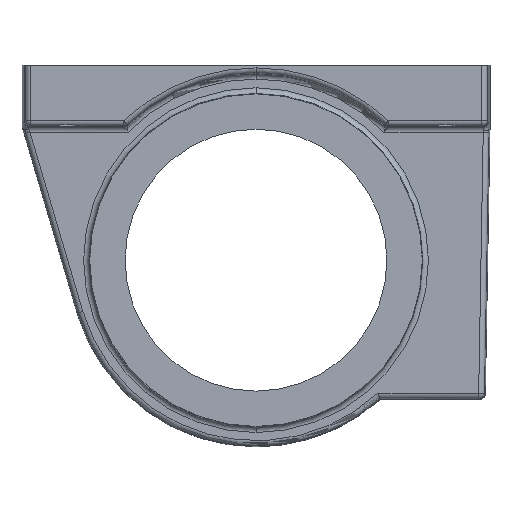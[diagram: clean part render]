
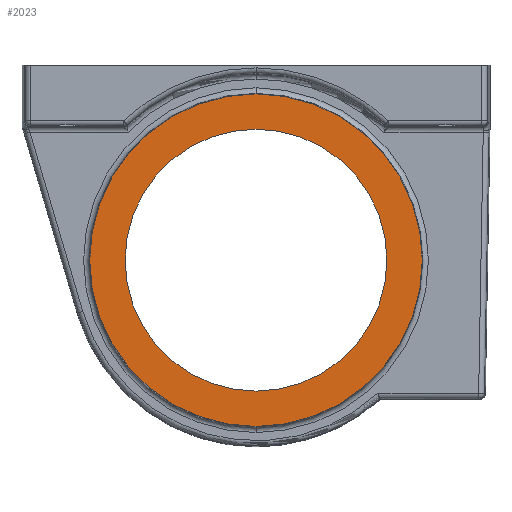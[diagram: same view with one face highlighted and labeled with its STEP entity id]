
A CAD part, front view. The second image highlights one B-rep face of the part: STEP entity #2023.
In plain terms, the highlighted planar face has unit normal (0, -1, 0).
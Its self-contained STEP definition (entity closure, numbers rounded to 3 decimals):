
#163 = CIRCLE ( 'NONE', #951, 23.5 ) ;
#231 = CARTESIAN_POINT ( 'NONE',  ( 0., -24., -1.657 ) ) ;
#460 = DIRECTION ( 'NONE',  ( 0., 1., 0. ) ) ;
#493 = CIRCLE ( 'NONE', #1682, 29.843 ) ;
#502 = ORIENTED_EDGE ( 'NONE', *, *, #2744, .F. ) ;
#561 = CARTESIAN_POINT ( 'NONE',  ( 0., -24., -31.5 ) ) ;
#598 = EDGE_CURVE ( 'NONE', #2064, #3783, #2434, .T. ) ;
#684 = FACE_BOUND ( 'NONE', #1702, .T. ) ;
#794 = DIRECTION ( 'NONE',  ( 0., 0., -1. ) ) ;
#805 = DIRECTION ( 'NONE',  ( 0., 1., 0. ) ) ;
#887 = AXIS2_PLACEMENT_3D ( 'NONE', #3638, #805, #2309 ) ;
#951 = AXIS2_PLACEMENT_3D ( 'NONE', #2943, #460, #794 ) ;
#1409 = CARTESIAN_POINT ( 'NONE',  ( 0., -24., -31.5 ) ) ;
#1479 = ORIENTED_EDGE ( 'NONE', *, *, #598, .F. ) ;
#1538 = DIRECTION ( 'NONE',  ( 0., 0., -1. ) ) ;
#1556 = CARTESIAN_POINT ( 'NONE',  ( 0., -24., -55. ) ) ;
#1565 = CARTESIAN_POINT ( 'NONE',  ( 0., -24., -61.343 ) ) ;
#1622 = DIRECTION ( 'NONE',  ( 0., 0., -1. ) ) ;
#1682 = AXIS2_PLACEMENT_3D ( 'NONE', #561, #1826, #1538 ) ;
#1702 = EDGE_LOOP ( 'NONE', ( #3673, #2025 ) ) ;
#1800 = DIRECTION ( 'NONE',  ( 0., 1., 0. ) ) ;
#1813 = CIRCLE ( 'NONE', #887, 23.5 ) ;
#1826 = DIRECTION ( 'NONE',  ( 0., 1., 0. ) ) ;
#1869 = DIRECTION ( 'NONE',  ( 0., -1., 0. ) ) ;
#2023 = ADVANCED_FACE ( 'NONE', ( #2587, #684 ), #2905, .T. ) ;
#2025 = ORIENTED_EDGE ( 'NONE', *, *, #2250, .T. ) ;
#2064 = VERTEX_POINT ( 'NONE', #1565 ) ;
#2105 = AXIS2_PLACEMENT_3D ( 'NONE', #1409, #1800, #3062 ) ;
#2123 = EDGE_CURVE ( 'NONE', #3430, #2304, #163, .T. ) ;
#2201 = CARTESIAN_POINT ( 'NONE',  ( 0., -24., -31.5 ) ) ;
#2223 = CARTESIAN_POINT ( 'NONE',  ( 0., -24., -8. ) ) ;
#2250 = EDGE_CURVE ( 'NONE', #2304, #3430, #1813, .T. ) ;
#2304 = VERTEX_POINT ( 'NONE', #2223 ) ;
#2307 = EDGE_LOOP ( 'NONE', ( #502, #1479 ) ) ;
#2309 = DIRECTION ( 'NONE',  ( 0., 0., -1. ) ) ;
#2434 = CIRCLE ( 'NONE', #2105, 29.843 ) ;
#2587 = FACE_OUTER_BOUND ( 'NONE', #2307, .T. ) ;
#2739 = AXIS2_PLACEMENT_3D ( 'NONE', #2201, #1869, #1622 ) ;
#2744 = EDGE_CURVE ( 'NONE', #3783, #2064, #493, .T. ) ;
#2905 = PLANE ( 'NONE',  #2739 ) ;
#2943 = CARTESIAN_POINT ( 'NONE',  ( 0., -24., -31.5 ) ) ;
#3062 = DIRECTION ( 'NONE',  ( 0., 0., -1. ) ) ;
#3430 = VERTEX_POINT ( 'NONE', #1556 ) ;
#3638 = CARTESIAN_POINT ( 'NONE',  ( 0., -24., -31.5 ) ) ;
#3673 = ORIENTED_EDGE ( 'NONE', *, *, #2123, .T. ) ;
#3783 = VERTEX_POINT ( 'NONE', #231 ) ;
